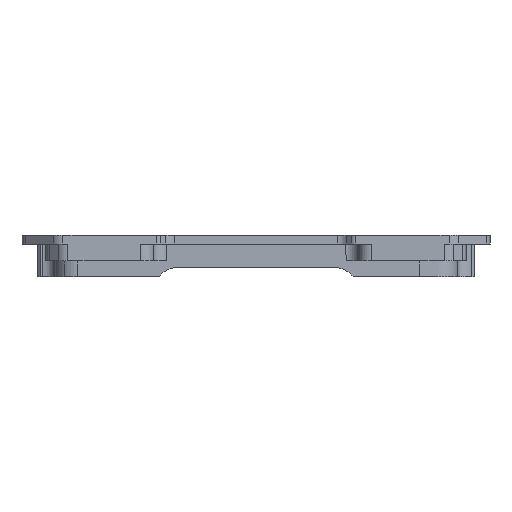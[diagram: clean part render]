
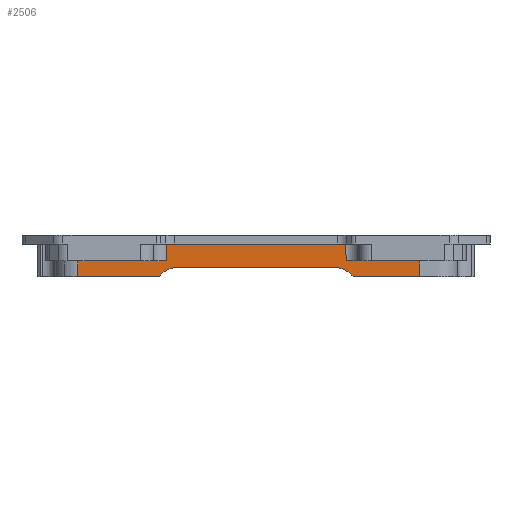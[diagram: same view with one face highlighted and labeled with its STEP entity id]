
A CAD part, front view. The second image highlights one B-rep face of the part: STEP entity #2506.
In plain terms, the highlighted planar face has unit normal (0, -1, 0).
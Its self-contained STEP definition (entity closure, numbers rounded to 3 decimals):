
#91 = CARTESIAN_POINT ( 'NONE',  ( -17.514, -3.887, 294.116 ) ) ;
#195 = VERTEX_POINT ( 'NONE', #8012 ) ;
#432 = DIRECTION ( 'NONE',  ( 0.383, 0., 0.924 ) ) ;
#580 = LINE ( 'NONE', #6486, #1378 ) ;
#694 = VERTEX_POINT ( 'NONE', #9394 ) ;
#1195 = CIRCLE ( 'NONE', #2605, 5.51 ) ;
#1378 = VECTOR ( 'NONE', #10372, 1000. ) ;
#1455 = DIRECTION ( 'NONE',  ( 0., -1., 0. ) ) ;
#1456 = LINE ( 'NONE', #5153, #5288 ) ;
#1560 = CARTESIAN_POINT ( 'NONE',  ( 18.748, -3.887, 295.835 ) ) ;
#1569 = VECTOR ( 'NONE', #1873, 1000. ) ;
#1820 = LINE ( 'NONE', #3109, #1569 ) ;
#1846 = VECTOR ( 'NONE', #8854, 1000. ) ;
#1873 = DIRECTION ( 'NONE',  ( -1., 0., 0. ) ) ;
#1944 = AXIS2_PLACEMENT_3D ( 'NONE', #7951, #1455, #432 ) ;
#2092 = EDGE_CURVE ( 'NONE', #12056, #3018, #7015, .T. ) ;
#2146 = CARTESIAN_POINT ( 'NONE',  ( -15.406, -3.887, 289.025 ) ) ;
#2307 = DIRECTION ( 'NONE',  ( 0., -1., 0. ) ) ;
#2311 = CARTESIAN_POINT ( 'NONE',  ( -48.888, -3.887, 292.636 ) ) ;
#2323 = ORIENTED_EDGE ( 'NONE', *, *, #6530, .F. ) ;
#2333 = CARTESIAN_POINT ( 'NONE',  ( 16.083, -3.887, 289.155 ) ) ;
#2475 = EDGE_CURVE ( 'NONE', #195, #9257, #1195, .T. ) ;
#2506 = ADVANCED_FACE ( 'NONE', ( #11687 ), #3129, .T. ) ;
#2605 = AXIS2_PLACEMENT_3D ( 'NONE', #4023, #2307, #6083 ) ;
#2613 = CARTESIAN_POINT ( 'NONE',  ( 18.712, -3.887, 296.985 ) ) ;
#2852 = EDGE_CURVE ( 'NONE', #9257, #9088, #5080, .T. ) ;
#3018 = VERTEX_POINT ( 'NONE', #10660 ) ;
#3075 = B_SPLINE_CURVE_WITH_KNOTS ( 'NONE', 3,
 ( #3726, #6633, #2613, #10446 ),
 .UNSPECIFIED., .F., .F.,
 ( 4, 4 ),
 ( 0., 1. ),
 .UNSPECIFIED. ) ;
#3109 = CARTESIAN_POINT ( 'NONE',  ( -17.688, -3.887, 294.535 ) ) ;
#3129 = PLANE ( 'NONE',  #3200 ) ;
#3200 = AXIS2_PLACEMENT_3D ( 'NONE', #5883, #10969, #9778 ) ;
#3252 = LINE ( 'NONE', #9963, #7123 ) ;
#3352 = CARTESIAN_POINT ( 'NONE',  ( -18.088, -3.888, 296.985 ) ) ;
#3398 = B_SPLINE_CURVE_WITH_KNOTS ( 'NONE', 3,
 ( #9261, #7330, #5431, #8490 ),
 .UNSPECIFIED., .F., .F.,
 ( 4, 4 ),
 ( 0., 1. ),
 .UNSPECIFIED. ) ;
#3530 = CARTESIAN_POINT ( 'NONE',  ( -18.088, -3.887, 299.285 ) ) ;
#3726 = CARTESIAN_POINT ( 'NONE',  ( 18.712, -3.887, 299.285 ) ) ;
#3788 = EDGE_CURVE ( 'NONE', #12056, #5507, #6147, .T. ) ;
#4013 = ORIENTED_EDGE ( 'NONE', *, *, #2475, .F. ) ;
#4023 = CARTESIAN_POINT ( 'NONE',  ( -15.406, -3.887, 289.025 ) ) ;
#4223 = EDGE_CURVE ( 'NONE', #7832, #195, #1820, .T. ) ;
#4297 = CIRCLE ( 'NONE', #5695, 5.38 ) ;
#4376 = EDGE_CURVE ( 'NONE', #694, #6664, #580, .T. ) ;
#4401 = CARTESIAN_POINT ( 'NONE',  ( -19.568, -3.887, 292.636 ) ) ;
#4805 = CARTESIAN_POINT ( 'NONE',  ( 33.795, -3.887, 295.835 ) ) ;
#4963 = DIRECTION ( 'NONE',  ( -0.383, 0., 0.924 ) ) ;
#5015 = DIRECTION ( 'NONE',  ( 1., 0., 0. ) ) ;
#5080 = CIRCLE ( 'NONE', #5269, 5.51 ) ;
#5153 = CARTESIAN_POINT ( 'NONE',  ( 43.312, -3.887, 295.835 ) ) ;
#5269 = AXIS2_PLACEMENT_3D ( 'NONE', #2146, #9801, #4963 ) ;
#5288 = VECTOR ( 'NONE', #6161, 1000. ) ;
#5431 = CARTESIAN_POINT ( 'NONE',  ( -36.188, -3.887, 294.769 ) ) ;
#5507 = VERTEX_POINT ( 'NONE', #12115 ) ;
#5695 = AXIS2_PLACEMENT_3D ( 'NONE', #2333, #9469, #10241 ) ;
#5805 = CARTESIAN_POINT ( 'NONE',  ( 20.186, -3.887, 292.636 ) ) ;
#5823 = VERTEX_POINT ( 'NONE', #10514 ) ;
#5876 = CARTESIAN_POINT ( 'NONE',  ( -18.088, -3.887, 299.285 ) ) ;
#5883 = CARTESIAN_POINT ( 'NONE',  ( 36.812, -3.887, 292.635 ) ) ;
#6083 = DIRECTION ( 'NONE',  ( -0.383, 0., 0.924 ) ) ;
#6087 = ORIENTED_EDGE ( 'NONE', *, *, #2852, .F. ) ;
#6147 = CIRCLE ( 'NONE', #1944, 5.38 ) ;
#6161 = DIRECTION ( 'NONE',  ( 1., 0., 0. ) ) ;
#6185 = CARTESIAN_POINT ( 'NONE',  ( 18.712, -3.887, 299.285 ) ) ;
#6243 = CARTESIAN_POINT ( 'NONE',  ( -18.088, -3.888, 298.135 ) ) ;
#6451 = VERTEX_POINT ( 'NONE', #6185 ) ;
#6486 = CARTESIAN_POINT ( 'NONE',  ( -18.088, -3.887, 295.835 ) ) ;
#6530 = EDGE_CURVE ( 'NONE', #5823, #694, #3398, .T. ) ;
#6633 = CARTESIAN_POINT ( 'NONE',  ( 18.712, -3.887, 298.135 ) ) ;
#6664 = VERTEX_POINT ( 'NONE', #9817 ) ;
#6918 = B_SPLINE_CURVE_WITH_KNOTS ( 'NONE', 3,
 ( #12028, #3352, #6243, #3530 ),
 .UNSPECIFIED., .F., .F.,
 ( 4, 4 ),
 ( 0., 1. ),
 .UNSPECIFIED. ) ;
#7015 = LINE ( 'NONE', #7971, #9256 ) ;
#7123 = VECTOR ( 'NONE', #5015, 1000. ) ;
#7292 = EDGE_CURVE ( 'NONE', #9088, #5823, #10739, .T. ) ;
#7330 = CARTESIAN_POINT ( 'NONE',  ( -36.188, -3.887, 293.702 ) ) ;
#7832 = VERTEX_POINT ( 'NONE', #10173 ) ;
#7863 = EDGE_CURVE ( 'NONE', #5507, #7832, #4297, .T. ) ;
#7951 = CARTESIAN_POINT ( 'NONE',  ( 16.083, -3.887, 289.155 ) ) ;
#7971 = CARTESIAN_POINT ( 'NONE',  ( 36.812, -3.887, 292.636 ) ) ;
#7999 = VERTEX_POINT ( 'NONE', #12395 ) ;
#8012 = CARTESIAN_POINT ( 'NONE',  ( -15.406, -3.887, 294.535 ) ) ;
#8107 = EDGE_CURVE ( 'NONE', #10267, #6451, #3252, .T. ) ;
#8181 = VERTEX_POINT ( 'NONE', #1560 ) ;
#8245 = ORIENTED_EDGE ( 'NONE', *, *, #4223, .F. ) ;
#8412 = ORIENTED_EDGE ( 'NONE', *, *, #12285, .F. ) ;
#8490 = CARTESIAN_POINT ( 'NONE',  ( -36.188, -3.887, 295.835 ) ) ;
#8509 = CARTESIAN_POINT ( 'NONE',  ( 33.795, -3.887, 292.636 ) ) ;
#8574 = ORIENTED_EDGE ( 'NONE', *, *, #10288, .F. ) ;
#8709 = CARTESIAN_POINT ( 'NONE',  ( 33.795, -3.887, 294.769 ) ) ;
#8804 = ORIENTED_EDGE ( 'NONE', *, *, #3788, .F. ) ;
#8854 = DIRECTION ( 'NONE',  ( -1., 0., 0. ) ) ;
#8957 = ORIENTED_EDGE ( 'NONE', *, *, #8107, .F. ) ;
#9088 = VERTEX_POINT ( 'NONE', #4401 ) ;
#9256 = VECTOR ( 'NONE', #9886, 1000. ) ;
#9257 = VERTEX_POINT ( 'NONE', #91 ) ;
#9261 = CARTESIAN_POINT ( 'NONE',  ( -36.188, -3.887, 292.635 ) ) ;
#9394 = CARTESIAN_POINT ( 'NONE',  ( -36.188, -3.887, 295.835 ) ) ;
#9469 = DIRECTION ( 'NONE',  ( 0., -1., 0. ) ) ;
#9778 = DIRECTION ( 'NONE',  ( 0., 0., -1. ) ) ;
#9801 = DIRECTION ( 'NONE',  ( 0., -1., 0. ) ) ;
#9817 = CARTESIAN_POINT ( 'NONE',  ( -18.088, -3.887, 295.835 ) ) ;
#9886 = DIRECTION ( 'NONE',  ( 1., 0., 0. ) ) ;
#9946 = ORIENTED_EDGE ( 'NONE', *, *, #4376, .F. ) ;
#9963 = CARTESIAN_POINT ( 'NONE',  ( 6.762, -3.887, 299.285 ) ) ;
#9989 = B_SPLINE_CURVE_WITH_KNOTS ( 'NONE', 3,
 ( #4805, #8709, #10466, #8509 ),
 .UNSPECIFIED., .F., .F.,
 ( 4, 4 ),
 ( 0., 0.003 ),
 .UNSPECIFIED. ) ;
#10173 = CARTESIAN_POINT ( 'NONE',  ( 16.083, -3.887, 294.535 ) ) ;
#10208 = ORIENTED_EDGE ( 'NONE', *, *, #7863, .F. ) ;
#10241 = DIRECTION ( 'NONE',  ( 0.383, 0., 0.924 ) ) ;
#10267 = VERTEX_POINT ( 'NONE', #5876 ) ;
#10288 = EDGE_CURVE ( 'NONE', #6451, #8181, #3075, .T. ) ;
#10312 = ORIENTED_EDGE ( 'NONE', *, *, #7292, .F. ) ;
#10372 = DIRECTION ( 'NONE',  ( 1., 0., 0. ) ) ;
#10446 = CARTESIAN_POINT ( 'NONE',  ( 18.748, -3.887, 295.835 ) ) ;
#10466 = CARTESIAN_POINT ( 'NONE',  ( 33.795, -3.887, 293.702 ) ) ;
#10514 = CARTESIAN_POINT ( 'NONE',  ( -36.188, -3.887, 292.635 ) ) ;
#10660 = CARTESIAN_POINT ( 'NONE',  ( 33.795, -3.887, 292.636 ) ) ;
#10739 = LINE ( 'NONE', #2311, #1846 ) ;
#10831 = EDGE_CURVE ( 'NONE', #7999, #3018, #9989, .T. ) ;
#10969 = DIRECTION ( 'NONE',  ( 0., -1., 0. ) ) ;
#11519 = ORIENTED_EDGE ( 'NONE', *, *, #11570, .F. ) ;
#11547 = EDGE_LOOP ( 'NONE', ( #4013, #8245, #10208, #8804, #11608, #11955, #11519, #8574, #8957, #8412, #9946, #2323, #10312, #6087 ) ) ;
#11570 = EDGE_CURVE ( 'NONE', #8181, #7999, #1456, .T. ) ;
#11608 = ORIENTED_EDGE ( 'NONE', *, *, #2092, .T. ) ;
#11687 = FACE_OUTER_BOUND ( 'NONE', #11547, .T. ) ;
#11955 = ORIENTED_EDGE ( 'NONE', *, *, #10831, .F. ) ;
#12028 = CARTESIAN_POINT ( 'NONE',  ( -18.088, -3.887, 295.835 ) ) ;
#12056 = VERTEX_POINT ( 'NONE', #5805 ) ;
#12115 = CARTESIAN_POINT ( 'NONE',  ( 18.142, -3.887, 294.126 ) ) ;
#12285 = EDGE_CURVE ( 'NONE', #6664, #10267, #6918, .T. ) ;
#12395 = CARTESIAN_POINT ( 'NONE',  ( 33.795, -3.887, 295.835 ) ) ;
